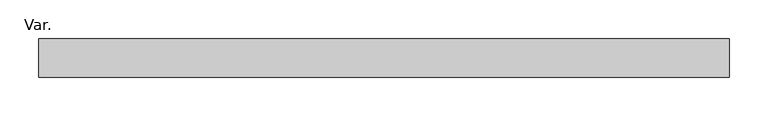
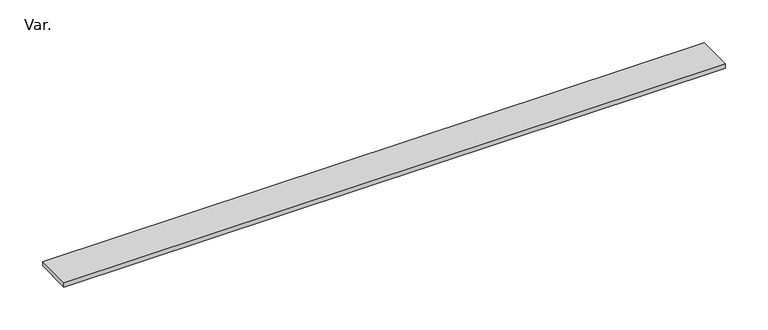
"""IFC4 building model written with IfcOpenShell, lengths in millimetres: pipe fitting geometry, AmancoWavin_ConexõesdeTubos_EsgotoRaloLinearSifonado : Var.."""

from ifc_helpers import new_model, si_unit, frame, origin, place, context, project, spatial, polyline, outline, extrude, source, transform, mapped, element, save


def var_f02d1231(model_context):
    return source(origin(), model_context, "Body", "SweptSolid", [
        extrude(outline(polyline([(448.3, -25.0), (-448.2, -25.0), (-448.2, 25.0), (448.3, 25.0), (448.3, -25.0)])), frame((0.0, 0.0, -5.7), z_axis=(0.0, 0.0, 1.0), x_axis=(1.0, 0.0, 0.0)), (0.0, 0.0, 1.0), 6.2),
    ])


if __name__ == "__main__":
    model = new_model("IFC4")
    model_context = context("Model", 3, world=origin())
    ifc_project = project(units=[si_unit("LENGTHUNIT", "METRE", prefix="MILLI")], contexts=[model_context])
    site = spatial("IfcSite", under=ifc_project)
    building = spatial("IfcBuilding", under=site)
    placement = place(None, origin())
    var_shape = var_f02d1231(model_context)
    element("IfcPipeFitting", 1, ObjectType="AmancoWavin_ConexõesdeTubos_EsgotoRaloLinearSifonado : Var.", at=placement, inside=building, context=model_context, shape_type="MappedRepresentation", body=[
        mapped(var_shape, transform((0.0, 0.0, 0.0), x_axis=(1.0, 0.0, 0.0), y_axis=(0.0, 1.0, 0.0), z_axis=(0.0, 0.0, 1.0))),
    ])
    save(model, "model.ifc")
